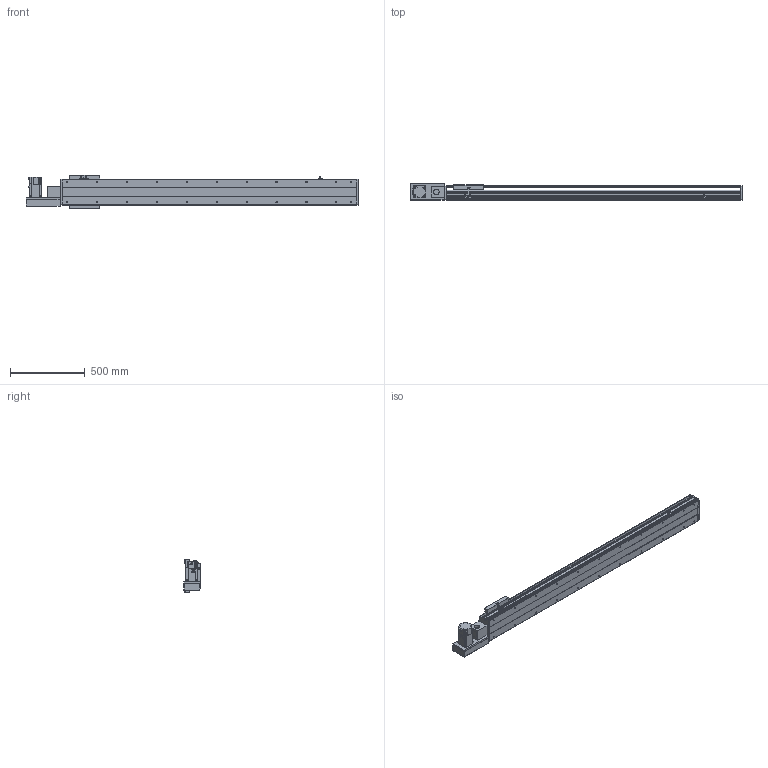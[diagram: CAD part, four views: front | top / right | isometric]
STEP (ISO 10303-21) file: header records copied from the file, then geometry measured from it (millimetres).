
FILE_DESCRIPTION(/* description */ ('STEP AP214'),/* implementation_level */ '2;1');
FILE_NAME(/* name */ 'PBS200-P40-S1600-L-T75-C1-N(0)',/* time_stamp */ '2022-06-11T07:49:26+02:00',/* author */ ('License CC BY-ND 4.0'),/* organization */ ('CADENAS'),/* preprocessor_version */ 'ST-DEVELOPER v18.102',/* originating_system */ 'PARTsolutions',/* authorisation */ ' ');
FILE_SCHEMA (('AUTOMOTIVE_DESIGN {1 0 10303 214 3 1 1}'));
Length unit declared in the file: millimetre
Products named in the file (7): PBS200-P40-S1600-L-T75-C1-N(0); PBS200_sensor; PBS200_plant; PBS200_sliser; T75-p1; PBS200T-L_motors; PBS200-S1600()_body
Assembly tree (8 placements, depth 2):
  PBS200-P40-S1600-L-T75-C1-N(0)
    PBS200_sensor  x3
    PBS200_plant
    PBS200_sliser
    T75-p1
    PBS200T-L_motors
    PBS200-S1600()_body
Bounding box: 2222 x 109 x 221 mm (x, y, z)
Volume: 14983798.4 mm3; surface area: 2410350.9 mm2
Topology: 8 solids, 8 shells, 938 faces, 2404 edges, 1566 vertices
Faces by surface type: plane 580, cylinder 304, cone 54
Full cylindrical faces by diameter (mm): 2.459 x6, 3.242 x4, 4.5 x6, 4.917 x4, 5 x6, 6 x7, 6.6 x8, 6.647 x26, 8 x6, 10 x4, 12 x8, 38 x2, 40 x1, 70 x1
Entity records: 24941 total; most frequent: DIRECTION 4399, CARTESIAN_POINT 4246, ORIENTED_EDGE 4018, EDGE_CURVE 2009, AXIS2_PLACEMENT_3D 1543, VERTEX_POINT 1390, LINE 1313, VECTOR 1313
